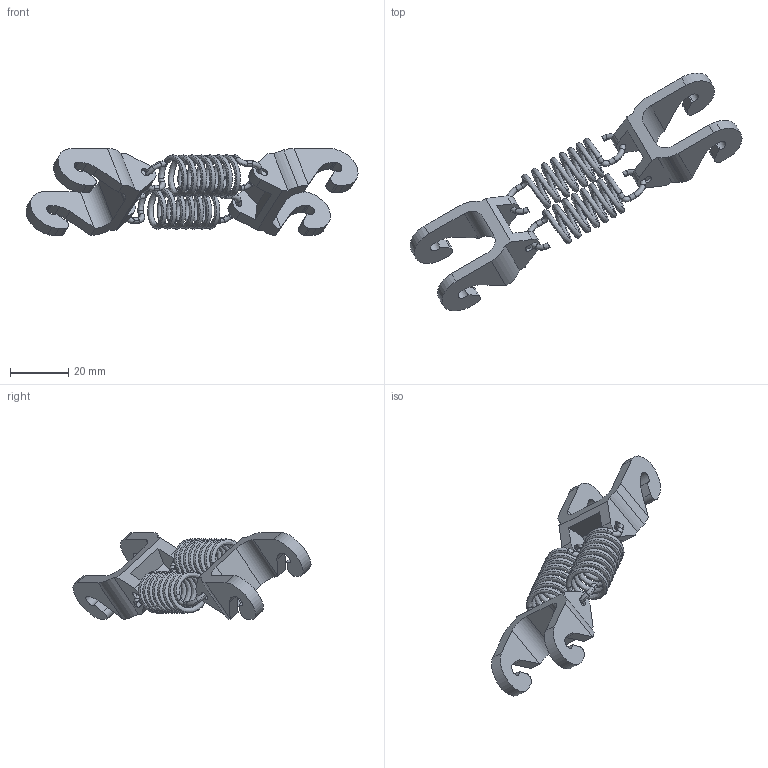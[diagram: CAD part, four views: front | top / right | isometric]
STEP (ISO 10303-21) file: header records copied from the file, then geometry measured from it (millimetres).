
FILE_DESCRIPTION (( 'STEP AP214' ), '1' );
FILE_NAME ('IRB360_8-1130-STD-4D_rev03_LA3_CU_CAD.step', '2025-01-14T07:05:56', ( '' ), ( '' ), 'SwSTEP 2.0', 'SolidWorks 2022', '' );
FILE_SCHEMA (( 'AUTOMOTIVE_DESIGN' ));
Length unit declared in the file: millimetre
Products named in the file (1): IRB360_8-1130-STD-4D_rev03_LA3_CU_CAD
Bounding box: 114.05 x 81.77 x 29.88 mm (x, y, z)
Volume: 11802.8 mm3; surface area: 10699.5 mm2
Topology: 1 solids, 1 shells, 174 faces, 466 edges, 300 vertices
Faces by surface type: cylinder 60, plane 54, torus 48, bspline 12
Entity records: 11194 total; most frequent: CARTESIAN_POINT 6007, DIRECTION 948, ORIENTED_EDGE 932, EDGE_CURVE 466, AXIS2_PLACEMENT_3D 387, VERTEX_POINT 300, CIRCLE 224, EDGE_LOOP 182
